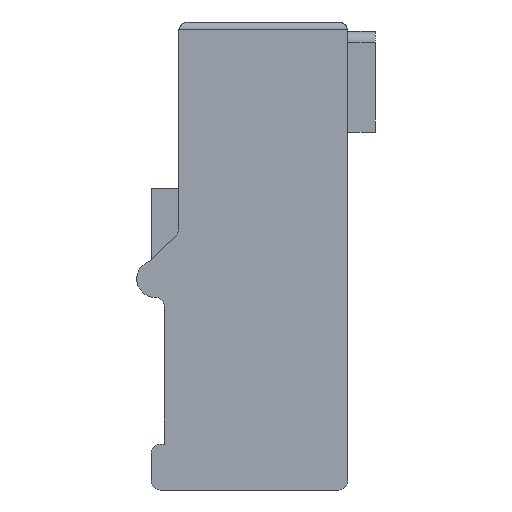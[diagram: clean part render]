
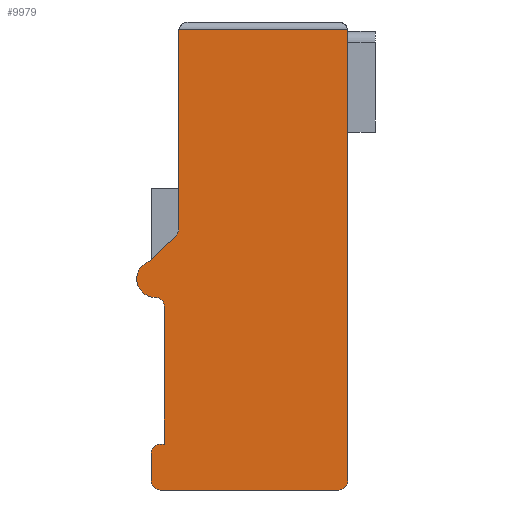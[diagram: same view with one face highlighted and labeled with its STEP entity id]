
A CAD part, left-side view. The second image highlights one B-rep face of the part: STEP entity #9979.
In plain terms, the highlighted planar face has unit normal (-1, 0, 0).
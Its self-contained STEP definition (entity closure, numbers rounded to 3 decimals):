
#93=CIRCLE('',#10546,0.5);
#95=CIRCLE('',#10567,0.5);
#101=CIRCLE('',#10577,0.5);
#102=CIRCLE('',#10579,0.5);
#104=CIRCLE('',#10582,0.5);
#106=CIRCLE('',#10586,0.5);
#108=CIRCLE('',#10591,0.5);
#110=CIRCLE('',#10594,1.);
#112=CIRCLE('',#10597,0.5);
#1471=ORIENTED_EDGE('',*,*,#3976,.F.);
#1472=ORIENTED_EDGE('',*,*,#4063,.T.);
#1473=ORIENTED_EDGE('',*,*,#3959,.F.);
#1474=ORIENTED_EDGE('',*,*,#3948,.F.);
#1475=ORIENTED_EDGE('',*,*,#3994,.T.);
#1476=ORIENTED_EDGE('',*,*,#3983,.F.);
#1477=ORIENTED_EDGE('',*,*,#4060,.T.);
#1478=ORIENTED_EDGE('',*,*,#4057,.F.);
#1479=ORIENTED_EDGE('',*,*,#4054,.T.);
#1480=ORIENTED_EDGE('',*,*,#4050,.F.);
#1481=ORIENTED_EDGE('',*,*,#4006,.F.);
#1482=ORIENTED_EDGE('',*,*,#4003,.F.);
#1483=ORIENTED_EDGE('',*,*,#4000,.F.);
#1484=ORIENTED_EDGE('',*,*,#3997,.F.);
#1485=ORIENTED_EDGE('',*,*,#3773,.F.);
#1486=ORIENTED_EDGE('',*,*,#3995,.F.);
#1487=ORIENTED_EDGE('',*,*,#3387,.F.);
#3387=EDGE_CURVE('',#4843,#4844,#5779,.T.);
#3773=EDGE_CURVE('',#5137,#5138,#6151,.T.);
#3948=EDGE_CURVE('',#5239,#5240,#6310,.T.);
#3959=EDGE_CURVE('',#5240,#5242,#93,.T.);
#3976=EDGE_CURVE('',#5244,#4843,#95,.T.);
#3983=EDGE_CURVE('',#5251,#5252,#6325,.T.);
#3994=EDGE_CURVE('',#5239,#5252,#101,.T.);
#3995=EDGE_CURVE('',#4844,#5137,#102,.T.);
#3997=EDGE_CURVE('',#5138,#5257,#104,.T.);
#4000=EDGE_CURVE('',#5257,#5259,#6332,.T.);
#4003=EDGE_CURVE('',#5259,#5261,#106,.T.);
#4006=EDGE_CURVE('',#5261,#5263,#6336,.T.);
#4050=EDGE_CURVE('',#5263,#5301,#6380,.T.);
#4054=EDGE_CURVE('',#5303,#5301,#108,.T.);
#4057=EDGE_CURVE('',#5303,#5305,#110,.T.);
#4060=EDGE_CURVE('',#5251,#5305,#112,.T.);
#4063=EDGE_CURVE('',#5244,#5242,#6387,.F.);
#4843=VERTEX_POINT('',#14108);
#4844=VERTEX_POINT('',#14110);
#5137=VERTEX_POINT('',#14862);
#5138=VERTEX_POINT('',#14863);
#5239=VERTEX_POINT('',#15188);
#5240=VERTEX_POINT('',#15190);
#5242=VERTEX_POINT('',#15216);
#5244=VERTEX_POINT('',#15253);
#5251=VERTEX_POINT('',#15268);
#5252=VERTEX_POINT('',#15270);
#5257=VERTEX_POINT('',#15294);
#5259=VERTEX_POINT('',#15300);
#5261=VERTEX_POINT('',#15306);
#5263=VERTEX_POINT('',#15312);
#5301=VERTEX_POINT('',#15395);
#5303=VERTEX_POINT('',#15402);
#5305=VERTEX_POINT('',#15408);
#5779=LINE('',#14109,#7143);
#6151=LINE('',#14861,#7515);
#6310=LINE('',#15189,#7674);
#6325=LINE('',#15269,#7689);
#6332=LINE('',#15299,#7696);
#6336=LINE('',#15311,#7700);
#6380=LINE('',#15394,#7744);
#6387=LINE('',#15418,#7751);
#7143=VECTOR('',#11297,1000.);
#7515=VECTOR('',#11843,1000.);
#7674=VECTOR('',#12134,1000.);
#7689=VECTOR('',#12215,1000.);
#7696=VECTOR('',#12254,1000.);
#7700=VECTOR('',#12266,1000.);
#7744=VECTOR('',#12312,1000.);
#7751=VECTOR('',#12341,1000.);
#8457=EDGE_LOOP('',(#1471,#1472,#1473,#1474,#1475,#1476,#1477,#1478,#1479,
#1480,#1481,#1482,#1483,#1484,#1485,#1486,#1487));
#8985=FACE_BOUND('',#8457,.T.);
#9480=PLANE('',#10600);
#9979=ADVANCED_FACE('',(#8985),#9480,.F.);
#10546=AXIS2_PLACEMENT_3D('',#15215,#12163,#12164);
#10567=AXIS2_PLACEMENT_3D('',#15254,#12205,#12206);
#10577=AXIS2_PLACEMENT_3D('',#15288,#12237,#12238);
#10579=AXIS2_PLACEMENT_3D('',#15290,#12241,#12242);
#10582=AXIS2_PLACEMENT_3D('',#15293,#12247,#12248);
#10586=AXIS2_PLACEMENT_3D('',#15305,#12259,#12260);
#10591=AXIS2_PLACEMENT_3D('',#15401,#12318,#12319);
#10594=AXIS2_PLACEMENT_3D('',#15407,#12325,#12326);
#10597=AXIS2_PLACEMENT_3D('',#15413,#12332,#12333);
#10600=AXIS2_PLACEMENT_3D('',#15417,#12339,#12340);
#11297=DIRECTION('',(0.,0.,-1.));
#11843=DIRECTION('',(0.,1.,0.));
#12134=DIRECTION('',(0.,0.,1.));
#12163=DIRECTION('',(1.,0.,0.));
#12164=DIRECTION('',(0.,0.,-1.));
#12205=DIRECTION('',(1.,0.,0.));
#12206=DIRECTION('',(0.,0.,-1.));
#12215=DIRECTION('',(0.,-0.709,0.705));
#12237=DIRECTION('',(1.,0.,0.));
#12238=DIRECTION('',(0.,0.,-1.));
#12241=DIRECTION('',(1.,0.,0.));
#12242=DIRECTION('',(0.,0.,-1.));
#12247=DIRECTION('',(1.,0.,0.));
#12248=DIRECTION('',(0.,0.,-1.));
#12254=DIRECTION('',(0.,0.,1.));
#12259=DIRECTION('',(1.,0.,0.));
#12260=DIRECTION('',(0.,0.,-1.));
#12266=DIRECTION('',(0.,-1.,0.));
#12312=DIRECTION('',(0.,0.,1.));
#12318=DIRECTION('',(1.,0.,0.));
#12319=DIRECTION('',(0.,0.,-1.));
#12325=DIRECTION('',(1.,0.,0.));
#12326=DIRECTION('',(0.,0.,-1.));
#12332=DIRECTION('',(1.,0.,0.));
#12333=DIRECTION('',(0.,0.,-1.));
#12339=DIRECTION('',(1.,0.,0.));
#12340=DIRECTION('',(0.,0.,-1.));
#12341=DIRECTION('',(0.,-1.,0.));
#14108=CARTESIAN_POINT('',(-20.,0.,25.));
#14109=CARTESIAN_POINT('',(-20.,0.,25.));
#14110=CARTESIAN_POINT('',(-20.,0.,0.5));
#14861=CARTESIAN_POINT('',(-20.,0.5,0.));
#14862=CARTESIAN_POINT('',(-20.,0.5,0.));
#14863=CARTESIAN_POINT('',(-20.,10.2,0.));
#15188=CARTESIAN_POINT('',(-20.,9.2,14.249));
#15189=CARTESIAN_POINT('',(-20.,9.2,14.249));
#15190=CARTESIAN_POINT('',(-20.,9.2,25.));
#15215=CARTESIAN_POINT('',(-20.,8.7,25.));
#15216=CARTESIAN_POINT('',(-20.,9.19,25.1));
#15253=CARTESIAN_POINT('',(-20.,0.01,25.1));
#15254=CARTESIAN_POINT('',(-20.,0.5,25.));
#15268=CARTESIAN_POINT('',(-20.,10.717,12.533));
#15269=CARTESIAN_POINT('',(-20.,10.717,12.533));
#15270=CARTESIAN_POINT('',(-20.,9.348,13.894));
#15288=CARTESIAN_POINT('',(-20.,9.7,14.249));
#15290=CARTESIAN_POINT('',(-20.,0.5,0.5));
#15293=CARTESIAN_POINT('',(-20.,10.2,0.5));
#15294=CARTESIAN_POINT('',(-20.,10.7,0.5));
#15299=CARTESIAN_POINT('',(-20.,10.7,0.5));
#15300=CARTESIAN_POINT('',(-20.,10.7,2.));
#15305=CARTESIAN_POINT('',(-20.,10.2,2.));
#15306=CARTESIAN_POINT('',(-20.,10.2,2.5));
#15311=CARTESIAN_POINT('',(-20.,10.2,2.5));
#15312=CARTESIAN_POINT('',(-20.,10.,2.5));
#15394=CARTESIAN_POINT('',(-20.,10.,2.5));
#15395=CARTESIAN_POINT('',(-20.,10.,10.));
#15401=CARTESIAN_POINT('',(-20.,10.5,10.));
#15402=CARTESIAN_POINT('',(-20.,10.5,10.5));
#15407=CARTESIAN_POINT('',(-20.,10.5,11.5));
#15408=CARTESIAN_POINT('',(-20.,10.88,12.425));
#15413=CARTESIAN_POINT('',(-20.,11.07,12.888));
#15417=CARTESIAN_POINT('',(-20.,8.7,25.));
#15418=CARTESIAN_POINT('',(-20.,10.7,25.1));
